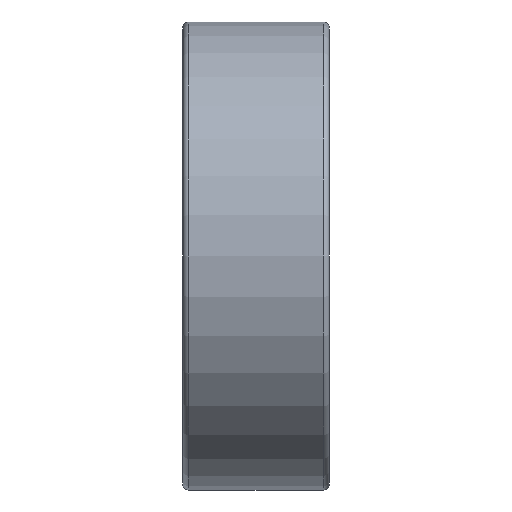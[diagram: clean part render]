
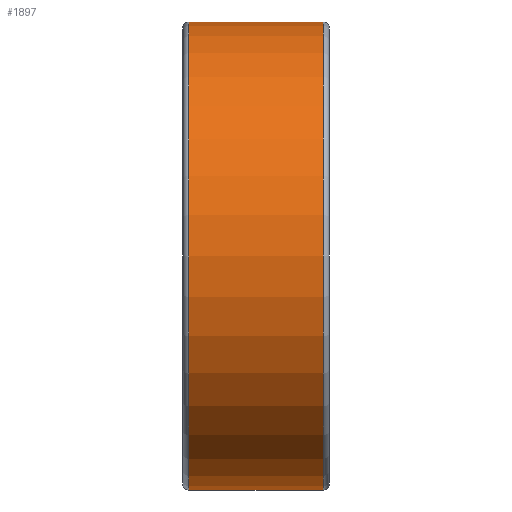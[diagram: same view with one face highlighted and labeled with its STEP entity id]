
A CAD part, front view. The second image highlights one B-rep face of the part: STEP entity #1897.
In plain terms, the highlighted cylindrical face has radius 4 mm (diameter 8 mm), a partial arc.
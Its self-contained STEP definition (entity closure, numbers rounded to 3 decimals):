
#209=CARTESIAN_POINT('',(1.15,0.,0.));
#210=DIRECTION('',(-1.,0.,0.));
#211=DIRECTION('',(0.,0.,-1.));
#212=AXIS2_PLACEMENT_3D('',#209,#210,#211);
#798=DIRECTION('',(-1.,0.,0.));
#799=VECTOR('',#798,2.3);
#800=CARTESIAN_POINT('',(1.15,0.,4.));
#801=LINE('',#800,#799);
#802=DIRECTION('',(-1.,0.,0.));
#803=VECTOR('',#802,2.3);
#804=CARTESIAN_POINT('',(1.15,0.,-4.));
#805=LINE('',#804,#803);
#811=CARTESIAN_POINT('',(-1.15,0.,0.));
#812=DIRECTION('',(1.,0.,0.));
#813=DIRECTION('',(0.,0.,1.));
#814=AXIS2_PLACEMENT_3D('',#811,#812,#813);
#962=CARTESIAN_POINT('',(1.15,0.,4.));
#963=VERTEX_POINT('',#962);
#964=CARTESIAN_POINT('',(1.15,0.,-4.));
#965=VERTEX_POINT('',#964);
#970=CARTESIAN_POINT('',(-1.15,0.,-4.));
#971=VERTEX_POINT('',#970);
#972=CARTESIAN_POINT('',(-1.15,0.,4.));
#973=VERTEX_POINT('',#972);
#1885=CARTESIAN_POINT('',(0.,0.,0.));
#1886=DIRECTION('',(-1.,0.,0.));
#1887=DIRECTION('',(0.,0.,1.));
#1888=AXIS2_PLACEMENT_3D('',#1885,#1886,#1887);
#1889=CYLINDRICAL_SURFACE('',#1888,4.);
#1890=ORIENTED_EDGE('',*,*,#1880,.T.);
#1892=ORIENTED_EDGE('',*,*,#1891,.F.);
#1893=ORIENTED_EDGE('',*,*,#1877,.F.);
#1894=ORIENTED_EDGE('',*,*,#1021,.F.);
#1895=EDGE_LOOP('',(#1890,#1892,#1893,#1894));
#1896=FACE_OUTER_BOUND('',#1895,.F.);
#1897=ADVANCED_FACE('',(#1896),#1889,.T.);
#213=CIRCLE('',#212,4.);
#815=CIRCLE('',#814,4.);
#1021=EDGE_CURVE('',#965,#963,#213,.T.);
#1877=EDGE_CURVE('',#963,#973,#801,.T.);
#1880=EDGE_CURVE('',#965,#971,#805,.T.);
#1891=EDGE_CURVE('',#973,#971,#815,.T.);
